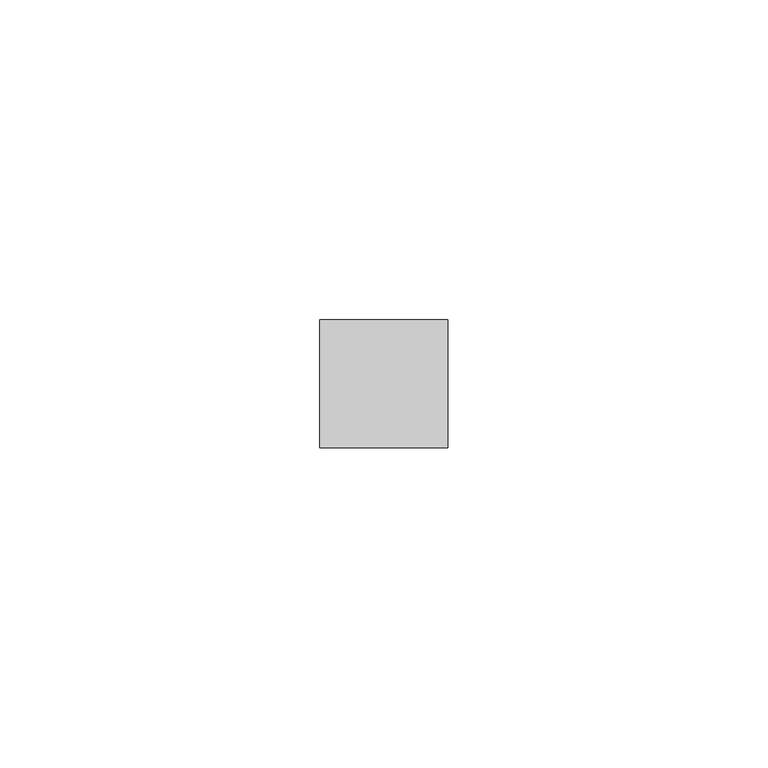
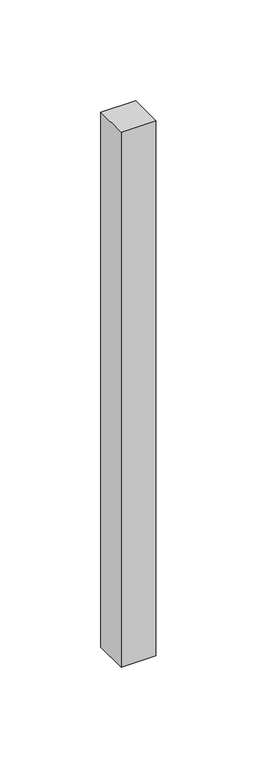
"""IFC4 building model written with IfcOpenShell, lengths in millimetres: member geometry, 矩形竖梃 : 20mm 正方形."""

from ifc_helpers import new_model, si_unit, frame, origin, place, context, project, spatial, polyline, outline, extrude, source, transform, mapped, element, save


def member_c8d6283c(model_context):
    return source(origin(), model_context, "Body", "SweptSolid", [
        extrude(outline(polyline([(0.0, 10.0), (0.0, -10.0), (-20.0, -10.0), (-20.0, 10.0), (0.0, 10.0)])), frame((0.0, 0.0, -323.5), z_axis=(0.0, 0.0, 1.0), x_axis=(1.0, 0.0, 0.0)), (0.0, 0.0, 1.0), 323.5),
    ])


if __name__ == "__main__":
    model = new_model("IFC4")
    model_context = context("Model", 3, world=origin())
    ifc_project = project(units=[si_unit("LENGTHUNIT", "METRE", prefix="MILLI")], contexts=[model_context])
    site = spatial("IfcSite", under=ifc_project)
    building = spatial("IfcBuilding", under=site)
    placement = place(None, origin())
    member_shape = member_c8d6283c(model_context)
    element("IfcMember", 1, ObjectType="矩形竖梃 : 20mm 正方形", at=placement, inside=building, context=model_context, shape_type="MappedRepresentation", body=[
        mapped(member_shape, transform((0.0, 0.0, 0.0), x_axis=(1.0, 0.0, 0.0), y_axis=(0.0, 1.0, 0.0), z_axis=(0.0, 0.0, 1.0))),
    ])
    save(model, "model.ifc")
